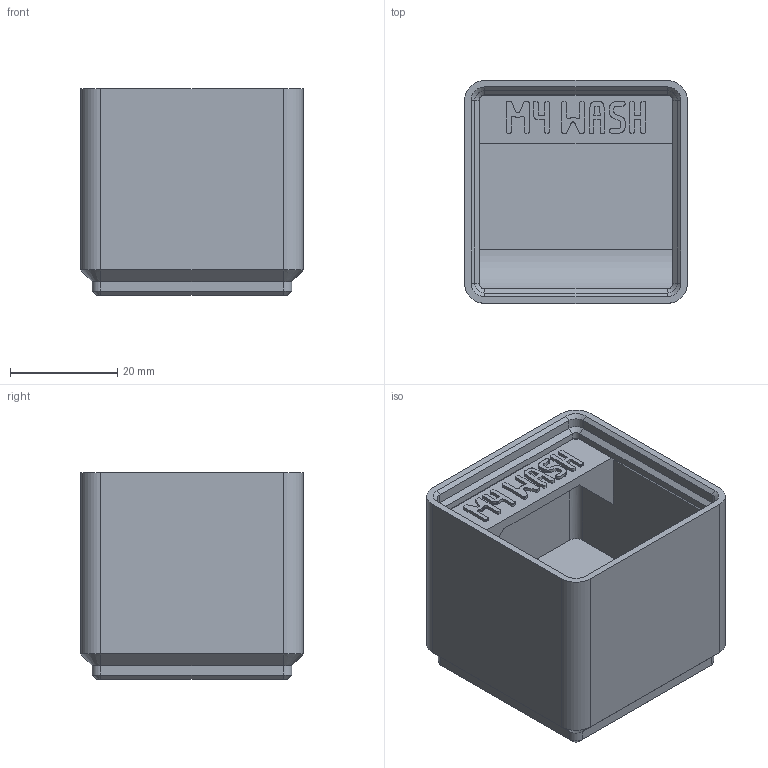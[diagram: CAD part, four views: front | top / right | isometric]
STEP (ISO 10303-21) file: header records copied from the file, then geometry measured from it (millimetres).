
FILE_DESCRIPTION(('Open CASCADE Model'),'2;1');
FILE_NAME('Open CASCADE Shape Model','2026-11-03T10:36:25',('Author'),( 'Open CASCADE'),'Open CASCADE STEP processor 8.0','build123d', 'Unknown');
FILE_SCHEMA(('AUTOMOTIVE_DESIGN { 1 0 10303 214 1 1 1 1 }'));
Length unit declared in the file: millimetre
Products named in the file (1): COMPOUND
Bounding box: 41.5 x 41.5 x 38.55 mm (x, y, z)
Volume: 27581.6 mm3; surface area: 13887.2 mm2
Topology: 1 solids, 1 shells, 731 faces, 2103 edges, 1382 vertices
Faces by surface type: plane 690, cylinder 21, cone 20
Entity records: 49561 total; most frequent: CARTESIAN_POINT 10235, DIRECTION 6322, LINE 4743, VECTOR 4743, ORIENTED_EDGE 4206, PCURVE 4206, DEFINITIONAL_REPRESENTATION 4206, EDGE_CURVE 2103
